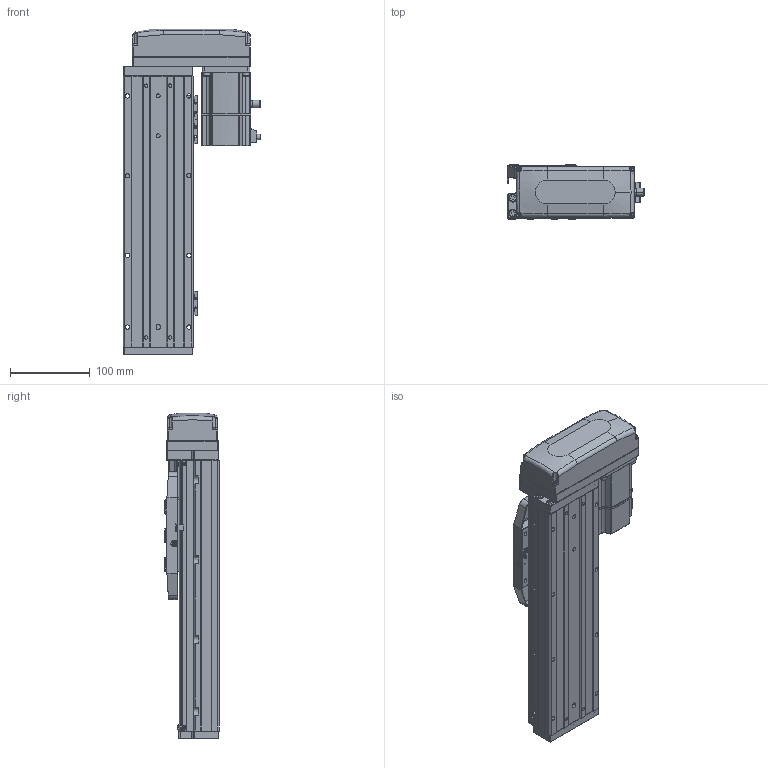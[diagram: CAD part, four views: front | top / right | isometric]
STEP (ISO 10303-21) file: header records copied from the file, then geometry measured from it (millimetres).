
FILE_DESCRIPTION (( 'STEP AP203' ), '1' );
FILE_NAME ('CTHA86-150-BL-M20-C4L.step', '2022-04-26T00:50:15', ( '微软用户' ), ( '微软中国' ), 'SwSTEP 2.0', 'SolidWorks 2020', '' );
FILE_SCHEMA (( 'CONFIG_CONTROL_DESIGN' ));
Length unit declared in the file: millimetre
Products named in the file (21): GBT70.1 M5℅16; CTHA86-030; GB¨uT 70.2-M3¡Á5_M3¡Á6; GBT 70.1-M3×16; GBT 70.3-M3℅6; EE_SX911P_R; GBT 70.1-M3℅6; CTHA86-015-1_CTHA86-015-2; CTHA60-017; CTHA60-016; CTHA86-033; CTHA60-021; _X2_4E0983F1_X0_200W_1; CTHA86-150-BL-M20-C4L; KTHA86-001_340; GBT77-2000 M3×3; CTHA86-002; KTHA86-004; GBT 70.1-M3×20; CTHA86-031; KTHA86-005
Assembly tree (66 placements, depth 2):
  CTHA86-150-BL-M20-C4L
    KTHA86-001_340
    KTHA86-004
    KTHA86-005
    GB¨uT 70.2-M3¡Á5_M3¡Á6  x10
    EE_SX911P_R  x3
    CTHA60-017  x3
    CTHA60-021  x2
    GBT77-2000 M3×3  x6
    GBT 70.1-M3×20
    GBT70.1 M5℅16  x14
    GBT 70.1-M3×16  x5
    GBT 70.1-M3℅6  x6
    CTHA60-016  x2
    _X2_4E0983F1_X0_200W_1
    CTHA86-002
    CTHA86-031
    CTHA86-030  x2
    GBT 70.3-M3℅6  x4
    CTHA86-015-1_CTHA86-015-2
    CTHA86-033
Bounding box: 172.7 x 68 x 409 mm (x, y, z)
Volume: 2051140.4 mm3; surface area: 374910.6 mm2
Topology: 68 solids, 68 shells, 2686 faces, 6372 edges, 3916 vertices
Faces by surface type: plane 1403, cylinder 693, cone 359, torus 132, bspline 75, sphere 24
Entity records: 45851 total; most frequent: CARTESIAN_POINT 8947, DIRECTION 7079, ORIENTED_EDGE 6844, EDGE_CURVE 3422, AXIS2_PLACEMENT_3D 2432, LINE 2215, VECTOR 2215, VERTEX_POINT 2148
